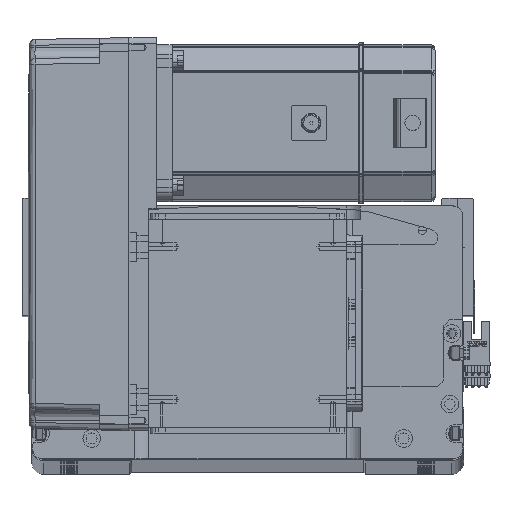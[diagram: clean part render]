
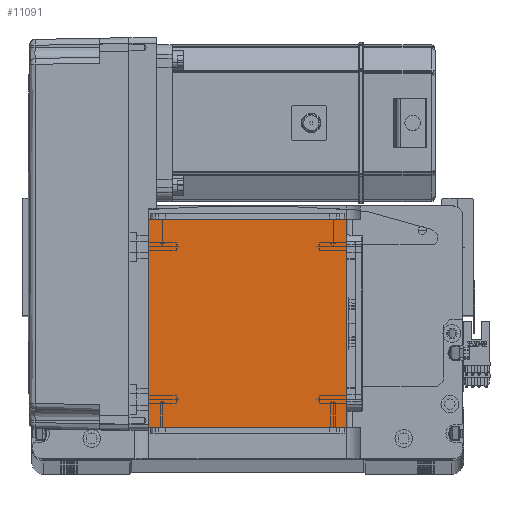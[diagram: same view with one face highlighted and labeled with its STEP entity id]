
A CAD part, top view. The second image highlights one B-rep face of the part: STEP entity #11091.
In plain terms, the highlighted planar face has unit normal (0, 0, 1).
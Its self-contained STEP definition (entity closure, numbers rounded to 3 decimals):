
#1199 = LINE ( 'NONE', #59025, #36914 ) ;
#1985 = VERTEX_POINT ( 'NONE', #25043 ) ;
#3047 = CARTESIAN_POINT ( 'NONE',  ( -50.5, 122., 115. ) ) ;
#3543 = VERTEX_POINT ( 'NONE', #40538 ) ;
#4909 = DIRECTION ( 'NONE',  ( -1., 0., 0. ) ) ;
#5583 = DIRECTION ( 'NONE',  ( 1., 0., 0. ) ) ;
#9550 = CARTESIAN_POINT ( 'NONE',  ( 50.5, 122., 115. ) ) ;
#11091 = ADVANCED_FACE ( 'NONE', ( #36372 ), #51363, .T. ) ;
#17804 = ORIENTED_EDGE ( 'NONE', *, *, #52992, .T. ) ;
#20409 = VECTOR ( 'NONE', #5583, 1000. ) ;
#24270 = EDGE_CURVE ( 'NONE', #52924, #1985, #38246, .T. ) ;
#24661 = CARTESIAN_POINT ( 'NONE',  ( -50.5, 16., 115. ) ) ;
#25043 = CARTESIAN_POINT ( 'NONE',  ( 50.5, 16., 115. ) ) ;
#25690 = DIRECTION ( 'NONE',  ( 0., -1., 0. ) ) ;
#27877 = AXIS2_PLACEMENT_3D ( 'NONE', #32267, #60637, #56699 ) ;
#28829 = CARTESIAN_POINT ( 'NONE',  ( -50.5, 122., 115. ) ) ;
#32267 = CARTESIAN_POINT ( 'NONE',  ( 0., 0., 115. ) ) ;
#33453 = DIRECTION ( 'NONE',  ( 0., 1., 0. ) ) ;
#36372 = FACE_OUTER_BOUND ( 'NONE', #42672, .T. ) ;
#36914 = VECTOR ( 'NONE', #25690, 1000. ) ;
#38246 = LINE ( 'NONE', #52131, #20409 ) ;
#38942 = LINE ( 'NONE', #28829, #50085 ) ;
#40538 = CARTESIAN_POINT ( 'NONE',  ( 50.5, 122., 115. ) ) ;
#41961 = EDGE_CURVE ( 'NONE', #1985, #3543, #52155, .T. ) ;
#42672 = EDGE_LOOP ( 'NONE', ( #17804, #44336, #52060, #50279 ) ) ;
#44336 = ORIENTED_EDGE ( 'NONE', *, *, #24270, .T. ) ;
#44857 = EDGE_CURVE ( 'NONE', #3543, #56243, #38942, .T. ) ;
#46979 = VECTOR ( 'NONE', #33453, 1000. ) ;
#50085 = VECTOR ( 'NONE', #4909, 1000. ) ;
#50279 = ORIENTED_EDGE ( 'NONE', *, *, #44857, .T. ) ;
#51363 = PLANE ( 'NONE',  #27877 ) ;
#52060 = ORIENTED_EDGE ( 'NONE', *, *, #41961, .T. ) ;
#52131 = CARTESIAN_POINT ( 'NONE',  ( -50.5, 16., 115. ) ) ;
#52155 = LINE ( 'NONE', #9550, #46979 ) ;
#52924 = VERTEX_POINT ( 'NONE', #24661 ) ;
#52992 = EDGE_CURVE ( 'NONE', #56243, #52924, #1199, .T. ) ;
#56243 = VERTEX_POINT ( 'NONE', #3047 ) ;
#56699 = DIRECTION ( 'NONE',  ( 1., 0., 0. ) ) ;
#59025 = CARTESIAN_POINT ( 'NONE',  ( -50.5, 122., 115. ) ) ;
#60637 = DIRECTION ( 'NONE',  ( 0., 0., 1. ) ) ;
